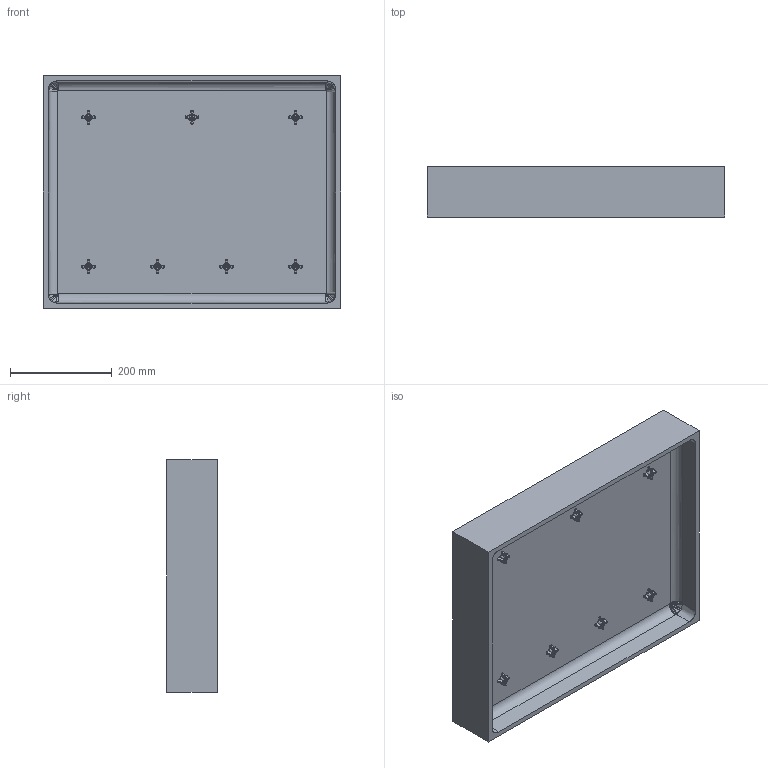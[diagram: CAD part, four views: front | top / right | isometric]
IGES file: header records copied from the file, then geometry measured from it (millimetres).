
Start section: SolidWorks IGES file using analytic representation for surfaces
Global section: file name: C:\temp\EU files dimensions 12-14-15\1620 EU  website files\1621-931T-CLR.IGS; native system: SolidWorks 2016; preprocessor: SolidWorks 2016; author: mhakami; date: 160228.203825; units: inch
Bounding box: 585.21 x 99.06 x 456.43 mm (x, y, z)
Surface area: 1917367.7 mm2 (no closed solid volume)
Topology: 0 solids, 0 shells, 1034 faces, 8897 edges, 8889 vertices
Faces by surface type: bspline 634, revolution 400
